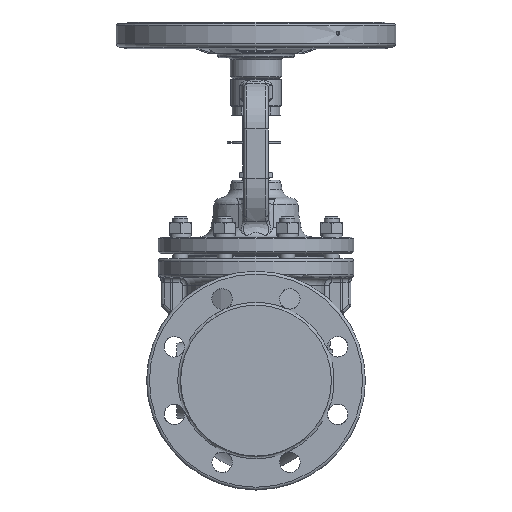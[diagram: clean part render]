
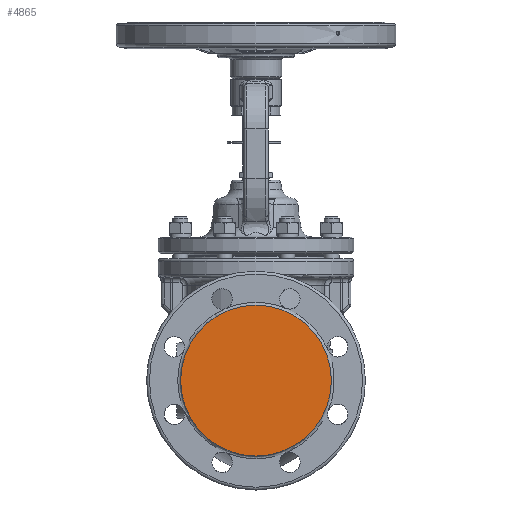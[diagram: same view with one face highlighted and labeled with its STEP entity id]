
A CAD part, front view. The second image highlights one B-rep face of the part: STEP entity #4865.
In plain terms, the highlighted planar face has unit normal (0, -1, 0).
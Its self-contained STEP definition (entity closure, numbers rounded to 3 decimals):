
#1789=FACE_OUTER_BOUND('',#6875,.T.);
#2863=PLANE('',#19911);
#4865=ADVANCED_FACE('',(#1789),#2863,.F.);
#6875=EDGE_LOOP('',(#8610));
#8610=ORIENTED_EDGE('',*,*,#16086,.F.);
#14289=VERTEX_POINT('',#42536);
#16086=EDGE_CURVE('',#14289,#14289,#18797,.T.);
#18797=CIRCLE('',#19910,81.);
#19910=AXIS2_PLACEMENT_3D('',#42535,#22173,#22174);
#19911=AXIS2_PLACEMENT_3D('',#42537,#22175,#22176);
#22173=DIRECTION('',(0.,1.,0.));
#22174=DIRECTION('',(-1.,0.,0.));
#22175=DIRECTION('',(0.,1.,0.));
#22176=DIRECTION('',(-1.,0.,0.));
#42535=CARTESIAN_POINT('',(0.,-175.,0.));
#42536=CARTESIAN_POINT('',(-81.,-175.,0.));
#42537=CARTESIAN_POINT('',(0.,-175.,0.));
